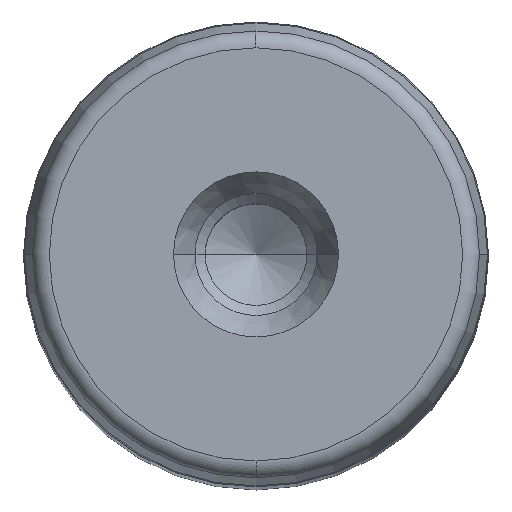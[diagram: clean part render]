
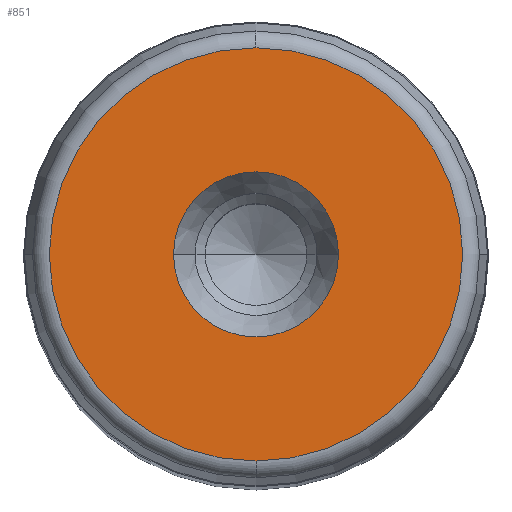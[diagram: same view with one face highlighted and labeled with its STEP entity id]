
A CAD part, top view. The second image highlights one B-rep face of the part: STEP entity #851.
In plain terms, the highlighted planar face has unit normal (0, 0, 1) as drawn and (0, 1, 0) by its records, which use the part's own axes.
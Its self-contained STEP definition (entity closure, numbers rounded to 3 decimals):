
#281=CARTESIAN_POINT('',(14.2,315.0,0.0));
#282=VERTEX_POINT('',#281);
#289=CARTESIAN_POINT('',(-14.2,315.0,0.));
#290=VERTEX_POINT('',#289);
#291=CARTESIAN_POINT('',(0.0,315.0,0.0));
#292=DIRECTION('',(0.0,1.0,0.0));
#293=DIRECTION('',(1.0,0.0,0.0));
#294=AXIS2_PLACEMENT_3D('',#291,#292,#293);
#295=CIRCLE('',#294,14.2);
#296=EDGE_CURVE('',#282,#290,#295,.T.);
#313=CARTESIAN_POINT('',(0.0,315.0,35.554));
#314=VERTEX_POINT('',#313);
#324=CARTESIAN_POINT('',(0.,315.0,-35.554));
#325=VERTEX_POINT('',#324);
#326=CARTESIAN_POINT('',(0.0,315.0,0.0));
#327=DIRECTION('',(0.0,1.0,0.0));
#328=DIRECTION('',(1.0,0.0,0.0));
#329=AXIS2_PLACEMENT_3D('',#326,#327,#328);
#330=CIRCLE('',#329,35.554);
#331=EDGE_CURVE('',#325,#314,#330,.T.);
#812=CARTESIAN_POINT('',(35.554,315.0,0.0));
#813=VERTEX_POINT('',#812);
#814=CARTESIAN_POINT('',(0.0,315.0,0.0));
#815=DIRECTION('',(0.0,1.0,0.0));
#816=DIRECTION('',(1.0,0.0,0.0));
#817=AXIS2_PLACEMENT_3D('',#814,#815,#816);
#818=CIRCLE('',#817,35.554);
#819=EDGE_CURVE('',#813,#325,#818,.T.);
#821=CARTESIAN_POINT('',(0.0,315.0,0.0));
#822=DIRECTION('',(0.0,1.0,0.0));
#823=DIRECTION('',(1.0,0.0,0.0));
#824=AXIS2_PLACEMENT_3D('',#821,#822,#823);
#825=CIRCLE('',#824,35.554);
#826=EDGE_CURVE('',#314,#813,#825,.T.);
#831=CARTESIAN_POINT('',(-39.11,315.0,-39.11));
#832=DIRECTION('',(0.0,1.0,0.0));
#833=DIRECTION('',(0.0,0.0,1.0));
#834=AXIS2_PLACEMENT_3D('',#831,#832,#833);
#835=PLANE('',#834);
#836=ORIENTED_EDGE('',*,*,#819,.T.);
#837=ORIENTED_EDGE('',*,*,#331,.T.);
#838=ORIENTED_EDGE('',*,*,#826,.T.);
#839=EDGE_LOOP('',(#836,#837,#838));
#840=FACE_OUTER_BOUND('',#839,.T.);
#841=ORIENTED_EDGE('',*,*,#296,.F.);
#842=CARTESIAN_POINT('',(0.0,315.0,0.0));
#843=DIRECTION('',(0.0,1.0,0.0));
#844=DIRECTION('',(1.0,0.0,0.0));
#845=AXIS2_PLACEMENT_3D('',#842,#843,#844);
#846=CIRCLE('',#845,14.2);
#847=EDGE_CURVE('',#290,#282,#846,.T.);
#848=ORIENTED_EDGE('',*,*,#847,.F.);
#849=EDGE_LOOP('',(#841,#848));
#850=FACE_BOUND('',#849,.T.);
#851=ADVANCED_FACE('',(#840,#850),#835,.T.);
